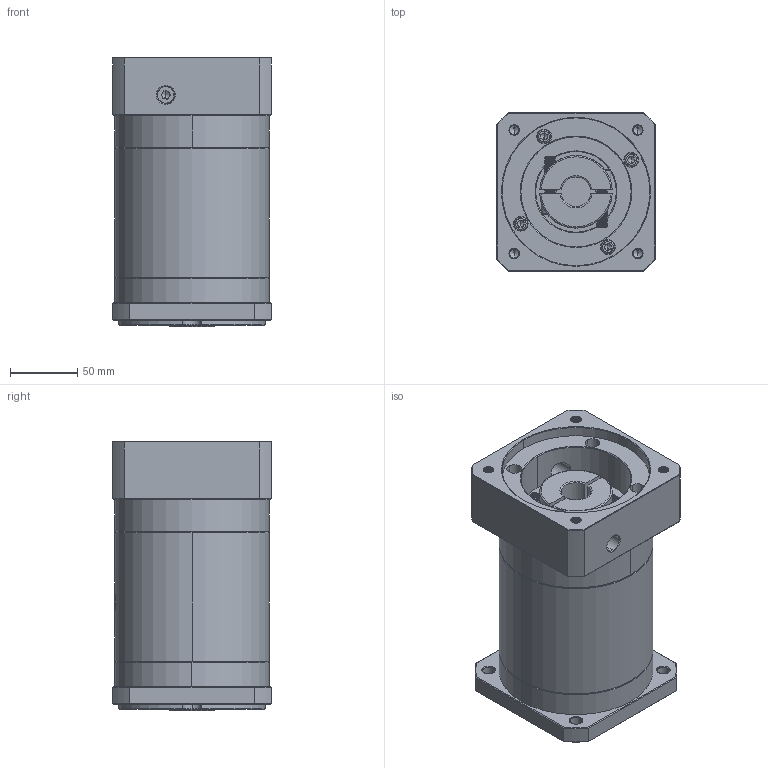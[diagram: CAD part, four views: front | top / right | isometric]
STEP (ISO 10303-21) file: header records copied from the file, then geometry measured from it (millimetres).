
FILE_DESCRIPTION (( 'STEP AP214' ), '1' );
FILE_NAME ('ZF120A-K25-L3-P2-22-110-130-M8.step', '2023-08-27T04:53:08', ( '' ), ( '' ), 'SwSTEP 2.0', 'SolidWorks 2016', '' );
FILE_SCHEMA (( 'AUTOMOTIVE_DESIGN' ));
Length unit declared in the file: millimetre
Products named in the file (1): ZF120A-K25-L3-P2-22-110-130-M8
Bounding box: 118 x 118 x 200.5 mm (x, y, z)
Volume: 1988495.7 mm3; surface area: 184818.9 mm2
Topology: 6 solids, 6 shells, 2179 faces, 5813 edges, 3739 vertices
Faces by surface type: plane 1027, bspline 430, cylinder 389, cone 333
Entity records: 118063 total; most frequent: CARTESIAN_POINT 45008, ORIENTED_EDGE 11570, DIRECTION 8407, EDGE_CURVE 5785, VERTEX_POINT 3739, LINE 3055, VECTOR 3055, AXIS2_PLACEMENT_3D 2676
